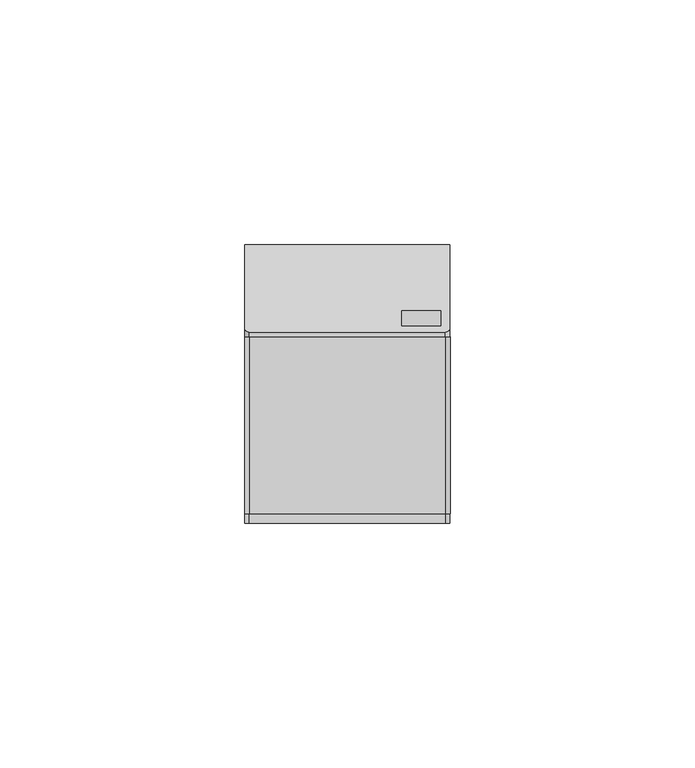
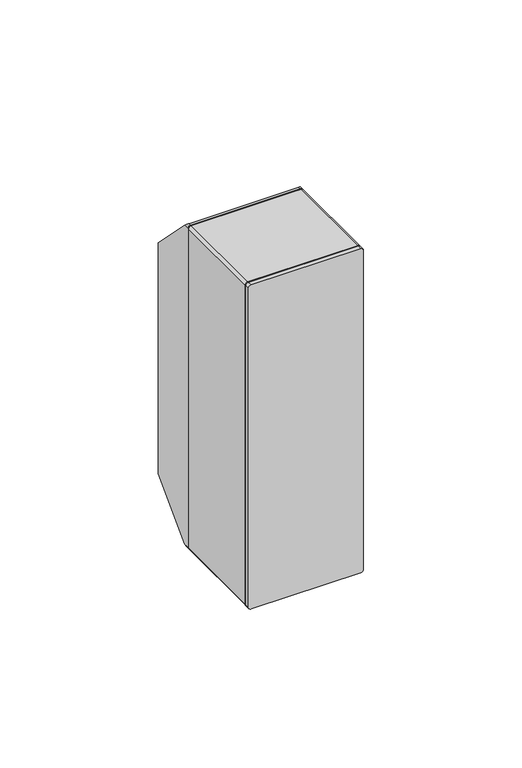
"""IFC4 building model written with IfcOpenShell, lengths in millimetres: proxy geometry, КМПн-1_2 : КМПн-1/2 инд.штрихкод_ЭКО бук/венге."""

from ifc_helpers import new_model, si_unit, point, frame, frame_2d, origin, place, context, project, spatial, polyline, circle_curve, ellipse_curve, trimmed, segment, composite_curve, outline, extrude, source, transform, mapped, element, save
from ifc_brep_helpers import plane_surface, cylinder_surface, advanced_brep


def electrical_equipment_269ade26(model_context):
    return source(origin(), model_context, "Body", "SolidModel", [
        advanced_brep(
        [(21.0, 57.0, 17.8949117), (21.0, 57.0, 107.1050883), (21.0, 40.1050883, 124.0), (21.0, 38.1050883, 124.0), (21.0, 38.1050883, 1.0), (21.0, 40.1050883, 1.0), (-21.0, 57.0, 107.1050883), (-21.0, 57.0, 17.8949117), (-21.0, 40.1050883, 1.0), (-21.0, 38.1050883, 1.0), (-21.0, 38.1050883, 124.0), (-21.0, 40.1050883, 124.0), (20.0, 38.1050883, 125.0), (-20.0, 38.1050883, 125.0), (-20.0, 38.1050883, 0.0), (20.0, 38.1050883, 0.0), (-9.0, 38.1050883, 95.0), (9.0, 38.1050883, 95.0), (9.0, 38.1050883, 30.0), (-9.0, 38.1050883, 30.0), (11.1494483, 38.1050883, 120.6777382), (11.1494483, 38.1050883, 123.6777382), (19.1494483, 38.1050883, 123.6777382), (19.1494483, 38.1050883, 120.6777382), (-11.1494483, 38.1050883, 4.3222618), (-11.1494483, 38.1050883, 1.3222618), (-19.1494483, 38.1050883, 1.3222618), (-19.1494483, 38.1050883, 4.3222618), (-20.0, 39.1050883, 125.0), (20.0, 39.1050883, 125.0), (11.1494483, 40.42735, 123.6777382), (11.1494483, 43.42735, 120.6777382), (19.1494483, 43.42735, 120.6777382), (19.1494483, 40.42735, 123.6777382), (9.0, 57.0, 95.0), (-9.0, 57.0, 95.0), (-9.0, 57.0, 30.0), (9.0, 57.0, 30.0), (-20.0, 39.1050883, 0.0), (20.0, 39.1050883, 0.0), (-11.1494483, 40.42735, 1.3222618), (-11.1494483, 43.42735, 4.3222618), (-19.1494483, 43.42735, 4.3222618), (-19.1494483, 40.42735, 1.3222618)],
        [
            (0, 1),
            (1, 2),
            (2, 3),
            (3, 4),
            (4, 5),
            (5, 0),
            (6, 7),
            (7, 8),
            (8, 9),
            (9, 10),
            (10, 11),
            (11, 6),
            (3, 12, circle_curve(frame((20.0, 38.1050883, 124.0), z_axis=(0.0, -1.0, 0.0), x_axis=(1.0, 0.0, 0.0)), 1.0)),
            (12, 13),
            (13, 10, circle_curve(frame((-20.0, 38.1050883, 124.0), z_axis=(0.0, -1.0, 0.0), x_axis=(1.0, 0.0, 0.0)), 1.0)),
            (9, 14, circle_curve(frame((-20.0, 38.1050883, 1.0), z_axis=(0.0, -1.0, 0.0), x_axis=(1.0, 0.0, 0.0)), 1.0)),
            (14, 15),
            (15, 4, circle_curve(frame((20.0, 38.1050883, 1.0), z_axis=(0.0, -1.0, 0.0), x_axis=(1.0, 0.0, 0.0)), 1.0)),
            (16, 17),
            (17, 18),
            (18, 19),
            (19, 16),
            (20, 21),
            (21, 22),
            (22, 23),
            (23, 20),
            (24, 25),
            (25, 26),
            (26, 27),
            (27, 24),
            (1, 6),
            (11, 28, ellipse_curve(frame((-20.0, 40.1050883, 124.0), z_axis=(0.0, 0.7071067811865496, 0.7071067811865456), x_axis=(0.0, 0.7071067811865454, -0.7071067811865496)), 1.4142136, 1.0)),
            (28, 29),
            (29, 2, ellipse_curve(frame((20.0, 40.1050883, 124.0), z_axis=(0.0, 0.7071067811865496, 0.7071067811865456), x_axis=(0.0, 0.7071067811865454, -0.7071067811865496)), 1.4142136, 1.0)),
            (30, 31),
            (31, 32),
            (32, 33),
            (33, 30),
            (0, 7),
            (34, 35),
            (35, 36),
            (36, 37),
            (37, 34),
            (34, 17),
            (16, 35),
            (37, 18),
            (36, 19),
            (29, 12),
            (14, 38),
            (38, 39),
            (39, 15),
            (5, 39, ellipse_curve(frame((20.0, 40.1050883, 1.0), z_axis=(0.0, 0.7071067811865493, -0.7071067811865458), x_axis=(0.0, 0.7071067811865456, 0.7071067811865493)), 1.4142136, 1.0)),
            (38, 8, ellipse_curve(frame((-20.0, 40.1050883, 1.0), z_axis=(0.0, 0.7071067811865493, -0.7071067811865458), x_axis=(0.0, 0.7071067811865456, 0.7071067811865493)), 1.4142136, 1.0)),
            (40, 41),
            (41, 42),
            (42, 43),
            (43, 40),
            (28, 13),
            (30, 21),
            (20, 31),
            (23, 32),
            (22, 33),
            (40, 25),
            (24, 41),
            (27, 42),
            (26, 43),
        ],
        [
            plane_surface(frame((21.0, 38.1050883, 0.0), z_axis=(1.0, 0.0, 0.0), x_axis=(0.0, 0.0, -1.0))),
            plane_surface(frame((-21.0, 38.1050883, 0.0), z_axis=(-1.0, 0.0, 0.0), x_axis=(0.0, 0.0, 1.0))),
            plane_surface(frame((21.0, 38.1050883, 125.0), z_axis=(0.0, -1.0, 0.0), x_axis=(-1.0, 0.0, 0.0))),
            plane_surface(frame((21.0, 57.0, 107.1050883), z_axis=(0.0, 0.7071067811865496, 0.7071067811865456), x_axis=(-1.0, 0.0, 0.0))),
            plane_surface(frame((21.0, 57.0, 17.8949117), z_axis=(0.0, 1.0, 0.0), x_axis=(-1.0, 0.0, 0.0))),
            plane_surface(frame((9.0, 28.0, 95.0), z_axis=(0.0, 0.0, -1.0), x_axis=(0.0, 1.0, 0.0))),
            plane_surface(frame((9.0, 28.0, 30.0), z_axis=(-1.0, 0.0, 0.0), x_axis=(0.0, 1.0, 0.0))),
            plane_surface(frame((-9.0, 28.0, 30.0), z_axis=(0.0, 0.0, 1.0), x_axis=(0.0, 1.0, 0.0))),
            plane_surface(frame((-9.0, 28.0, 95.0), z_axis=(1.0, 0.0, 0.0), x_axis=(0.0, 1.0, 0.0))),
            cylinder_surface(frame((20.0, 54.9735274, 124.0), z_axis=(0.0, 1.0, 0.0), x_axis=(1.0, 0.0, 0.0)), 1.0),
            plane_surface(frame((21.0, 38.1050883, 0.0), z_axis=(0.0, 3.0645985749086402e-12, -1.0), x_axis=(-1.0, 0.0, 0.0))),
            plane_surface(frame((21.0, 39.1050883, 0.0), z_axis=(0.0, 0.7071067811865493, -0.7071067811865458), x_axis=(-1.0, 0.0, 0.0))),
            plane_surface(frame((21.0, 39.1050883, 125.0), z_axis=(0.0, 3.0624836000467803e-12, 1.0), x_axis=(-1.0, 0.0, 0.0))),
            cylinder_surface(frame((-20.0, -16.0, 124.0), z_axis=(0.0, 1.0, 0.0), x_axis=(1.0, 0.0, 0.0)), 1.0),
            cylinder_surface(frame((20.0, -16.0, 1.0), z_axis=(0.0, 1.0, 0.0), x_axis=(1.0, 0.0, 0.0)), 1.0),
            cylinder_surface(frame((-20.0, -16.0, 1.0), z_axis=(0.0, 1.0, 0.0), x_axis=(1.0, 0.0, 0.0)), 1.0),
            plane_surface(frame((11.1494483, 38.1050883, 123.6777382), z_axis=(1.0, 0.0, 0.0), x_axis=(0.0, 1.0, 0.0))),
            plane_surface(frame((11.1494483, 38.1050883, 120.6777382), z_axis=(0.0, 0.0, 1.0), x_axis=(0.0, 1.0, 0.0))),
            plane_surface(frame((19.1494483, 38.1050883, 120.6777382), z_axis=(-1.0, 0.0, 0.0), x_axis=(0.0, 1.0, 0.0))),
            plane_surface(frame((19.1494483, 38.1050883, 123.6777382), z_axis=(0.0, 0.0, -1.0), x_axis=(0.0, 1.0, 0.0))),
            plane_surface(frame((-11.1494483, 38.1050883, 1.3222618), z_axis=(-1.0, 0.0, 0.0), x_axis=(0.0, 1.0, 0.0))),
            plane_surface(frame((-11.1494483, 38.1050883, 4.3222618), z_axis=(0.0, 0.0, -1.0), x_axis=(0.0, 1.0, 0.0))),
            plane_surface(frame((-19.1494483, 38.1050883, 4.3222618), z_axis=(1.0, 0.0, 0.0), x_axis=(0.0, 1.0, 0.0))),
            plane_surface(frame((-19.1494483, 38.1050883, 1.3222618), z_axis=(0.0, 0.0, 1.0), x_axis=(0.0, 1.0, 0.0))),
        ],
        [
            (0, [[1, 2, 3, 4, 5, 6]]),
            (1, [[7, 8, 9, 10, 11, 12]]),
            (2, [[-4, 13, 14, 15, -10, 16, 17, 18], [19, 20, 21, 22], [23, 24, 25, 26], [27, 28, 29, 30]]),
            (3, [[31, -12, 32, 33, 34, -2], [35, 36, 37, 38]]),
            (4, [[-1, 39, -7, -31], [40, 41, 42, 43]]),
            (5, [[44, -19, 45, -40]]),
            (6, [[-44, -43, 46, -20]]),
            (7, [[-46, -42, 47, -21]]),
            (8, [[-47, -41, -45, -22]]),
            (9, [[-3, -34, 48, -13]]),
            (10, [[-17, 49, 50, 51]]),
            (11, [[-39, -6, 52, -50, 53, -8], [54, 55, 56, 57]]),
            (12, [[-14, -48, -33, 58]]),
            (13, [[-11, -15, -58, -32]]),
            (14, [[-5, -18, -51, -52]]),
            (15, [[-9, -53, -49, -16]]),
            (16, [[59, -23, 60, -35]]),
            (17, [[-60, -26, 61, -36]]),
            (18, [[-61, -25, 62, -37]]),
            (19, [[-59, -38, -62, -24]]),
            (20, [[63, -27, 64, -54]]),
            (21, [[-64, -30, 65, -55]]),
            (22, [[-65, -29, 66, -56]]),
            (23, [[-63, -57, -66, -28]]),
        ],
    ),
        extrude(outline(composite_curve([segment(polyline([(125.0, 20.0143257), (125.0, -19.9856743)]), True, "CONTINUOUS"), segment(trimmed(circle_curve(frame_2d((124.0, -19.9856743)), 1.0), [point((125.0, -19.9856743))], [point((124.0, -20.9856743))], False, "CARTESIAN"), True, "CONTINUOUS"), segment(polyline([(124.0, -20.9856743), (1.0, -20.9856743)]), True, "CONTINUOUS"), segment(trimmed(circle_curve(frame_2d((1.0, -19.9856743)), 1.0), [point((1.0, -20.9856743))], [point((0.0, -19.9856743))], False, "CARTESIAN"), True, "CONTINUOUS"), segment(polyline([(0.0, -19.9856743), (0.0, 20.0143257)]), True, "CONTINUOUS"), segment(trimmed(circle_curve(frame_2d((1.0, 20.0143257)), 1.0), [point((0.0, 20.0143257))], [point((1.0, 21.0143257))], False, "CARTESIAN"), True, "CONTINUOUS"), segment(polyline([(1.0, 21.0143257), (124.0, 21.0143257)]), True, "CONTINUOUS"), segment(trimmed(circle_curve(frame_2d((124.0, 20.0143257)), 1.0), [point((124.0, 21.0143257))], [point((125.0, 20.0143257))], False, "CARTESIAN"), True, "CONTINUOUS")], self_intersect=False), holes=[polyline([(120.9981471, 12.4911629), (4.0018529, 12.4911629), (4.0018529, -12.4911629), (120.9981471, -12.4911629), (120.9981471, 12.4911629)])]), frame((0.0, 2.0, 0.0), z_axis=(0.0, 1.0, 0.0), x_axis=(0.0, 0.0, 1.0)), (0.0, 0.0, 1.0), 36.1050883),
        extrude(outline(composite_curve([segment(polyline([(125.0, 20.0), (125.0, -20.0)]), True, "CONTINUOUS"), segment(trimmed(circle_curve(frame_2d((124.0, -20.0)), 1.0), [point((125.0, -20.0))], [point((124.0, -21.0))], False, "CARTESIAN"), True, "CONTINUOUS"), segment(polyline([(124.0, -21.0), (1.0, -21.0)]), True, "CONTINUOUS"), segment(trimmed(circle_curve(frame_2d((1.0, -20.0)), 1.0), [point((1.0, -21.0))], [point((0.0, -20.0))], False, "CARTESIAN"), True, "CONTINUOUS"), segment(polyline([(0.0, -20.0), (0.0, 20.0)]), True, "CONTINUOUS"), segment(trimmed(circle_curve(frame_2d((1.0, 20.0)), 1.0), [point((0.0, 20.0))], [point((1.0, 21.0))], False, "CARTESIAN"), True, "CONTINUOUS"), segment(polyline([(1.0, 21.0), (124.0, 21.0)]), True, "CONTINUOUS"), segment(trimmed(circle_curve(frame_2d((124.0, 20.0)), 1.0), [point((124.0, 21.0))], [point((125.0, 20.0))], False, "CARTESIAN"), True, "CONTINUOUS")], self_intersect=False)), frame((0.0, 0.0, 0.0), z_axis=(0.0, 1.0, 0.0), x_axis=(0.0, 0.0, 1.0)), (0.0, 0.0, 1.0), 2.0),
    ])


if __name__ == "__main__":
    model = new_model("IFC4")
    model_context = context("Model", 3, world=origin())
    ifc_project = project(units=[si_unit("LENGTHUNIT", "METRE", prefix="MILLI")], contexts=[model_context])
    site = spatial("IfcSite", under=ifc_project)
    building = spatial("IfcBuilding", under=site)
    placement = place(None, origin())
    electrical_equipment_shape = electrical_equipment_269ade26(model_context)
    element("IfcBuildingElementProxy", 1, Name="КМПн-1_2 : КМПн-1/2 инд.штрихкод_ЭКО бук/венге", ObjectType="КМПн-1_2 : КМПн-1/2 инд.штрихкод_ЭКО бук/венге", at=placement, inside=building, context=model_context, shape_type="MappedRepresentation", body=[
        mapped(electrical_equipment_shape, transform((0.0, 0.0, 0.0), x_axis=(1.0, 0.0, 0.0), y_axis=(0.0, 1.0, 0.0), z_axis=(0.0, 0.0, 1.0))),
    ])
    save(model, "model.ifc")
